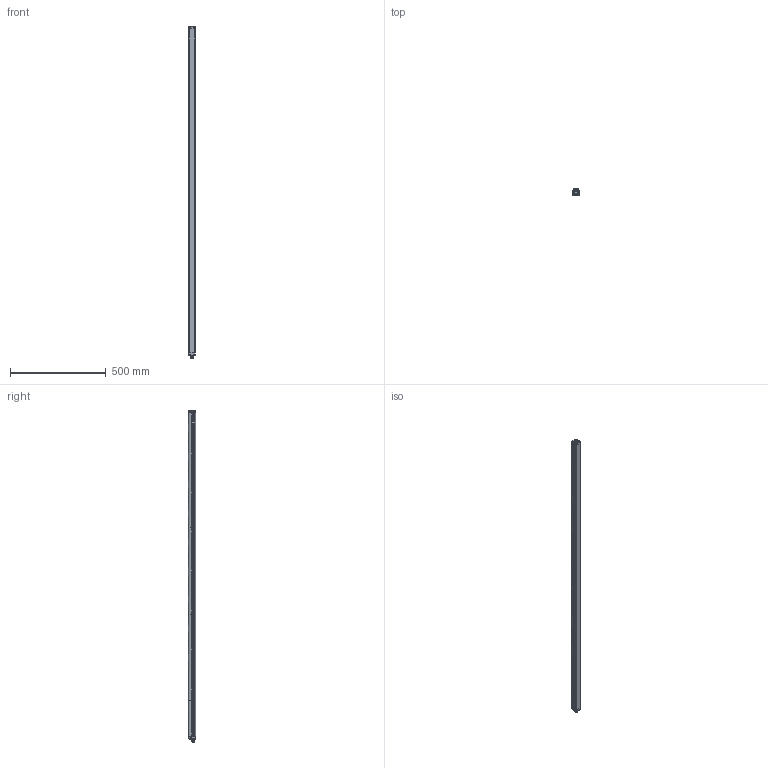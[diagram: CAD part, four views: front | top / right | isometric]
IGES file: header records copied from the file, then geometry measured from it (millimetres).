
Global section: file name: D:\Studi\DSD-0155.igs; preprocessor: I-DEAS 3D IGES Translator 11; date: 20080609.123427; units: millimetre
Bounding box: 32.3 x 36.9 x 1733.34 mm (x, y, z)
Volume: 1746086.1 mm3; surface area: 402400 mm2
Topology: 12 solids, 12 shells, 1630 faces, 6361 edges, 5200 vertices
Faces by surface type: bspline 1630
